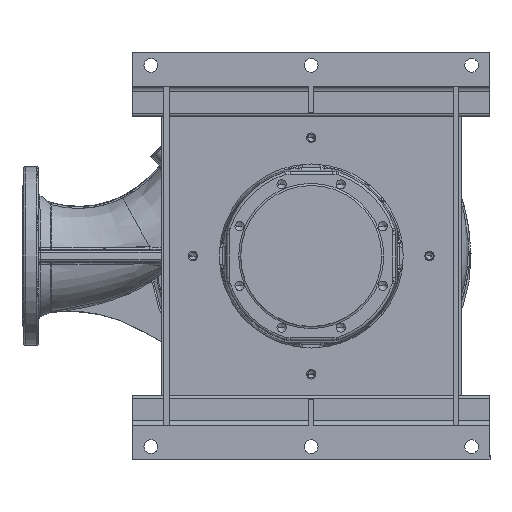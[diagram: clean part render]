
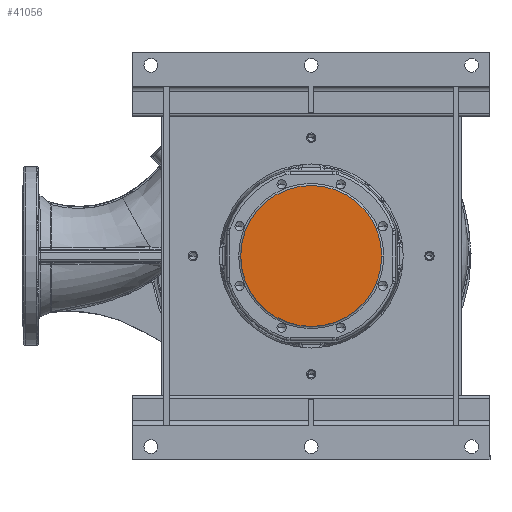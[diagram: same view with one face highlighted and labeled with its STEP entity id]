
A CAD part, front view. The second image highlights one B-rep face of the part: STEP entity #41056.
In plain terms, the highlighted planar face has unit normal (0, -1, 0).
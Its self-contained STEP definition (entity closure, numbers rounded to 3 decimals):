
#13119 = VERTEX_POINT ( 'NONE', #52356 ) ;
#13654 = DIRECTION ( 'NONE',  ( 0., -1., 0. ) ) ;
#14588 = EDGE_CURVE ( 'NONE', #13119, #74389, #29023, .T. ) ;
#29023 = CIRCLE ( 'NONE', #64403, 134. ) ;
#30546 = PLANE ( 'NONE',  #100945 ) ;
#34996 = ORIENTED_EDGE ( 'NONE', *, *, #95724, .T. ) ;
#41056 = ADVANCED_FACE ( 'NONE', ( #88353 ), #30546, .T. ) ;
#52356 = CARTESIAN_POINT ( 'NONE',  ( 134., -517., 0. ) ) ;
#53800 = DIRECTION ( 'NONE',  ( 0., -1., 0. ) ) ;
#54437 = CARTESIAN_POINT ( 'NONE',  ( 0., -517., 0. ) ) ;
#57484 = ORIENTED_EDGE ( 'NONE', *, *, #14588, .T. ) ;
#64403 = AXIS2_PLACEMENT_3D ( 'NONE', #78515, #13654, #89372 ) ;
#65327 = DIRECTION ( 'NONE',  ( -1., 0., 0. ) ) ;
#67310 = EDGE_LOOP ( 'NONE', ( #34996, #57484 ) ) ;
#74389 = VERTEX_POINT ( 'NONE', #132903 ) ;
#78515 = CARTESIAN_POINT ( 'NONE',  ( 0., -517., 0. ) ) ;
#87063 = CIRCLE ( 'NONE', #98497, 134. ) ;
#88353 = FACE_OUTER_BOUND ( 'NONE', #67310, .T. ) ;
#89372 = DIRECTION ( 'NONE',  ( -1., 0., 0. ) ) ;
#95724 = EDGE_CURVE ( 'NONE', #74389, #13119, #87063, .T. ) ;
#98497 = AXIS2_PLACEMENT_3D ( 'NONE', #54437, #130138, #65327 ) ;
#100945 = AXIS2_PLACEMENT_3D ( 'NONE', #118609, #53800, #129488 ) ;
#118609 = CARTESIAN_POINT ( 'NONE',  ( 0., -517., 0. ) ) ;
#129488 = DIRECTION ( 'NONE',  ( -1., 0., 0. ) ) ;
#130138 = DIRECTION ( 'NONE',  ( 0., -1., 0. ) ) ;
#132903 = CARTESIAN_POINT ( 'NONE',  ( -134., -517., 0. ) ) ;
